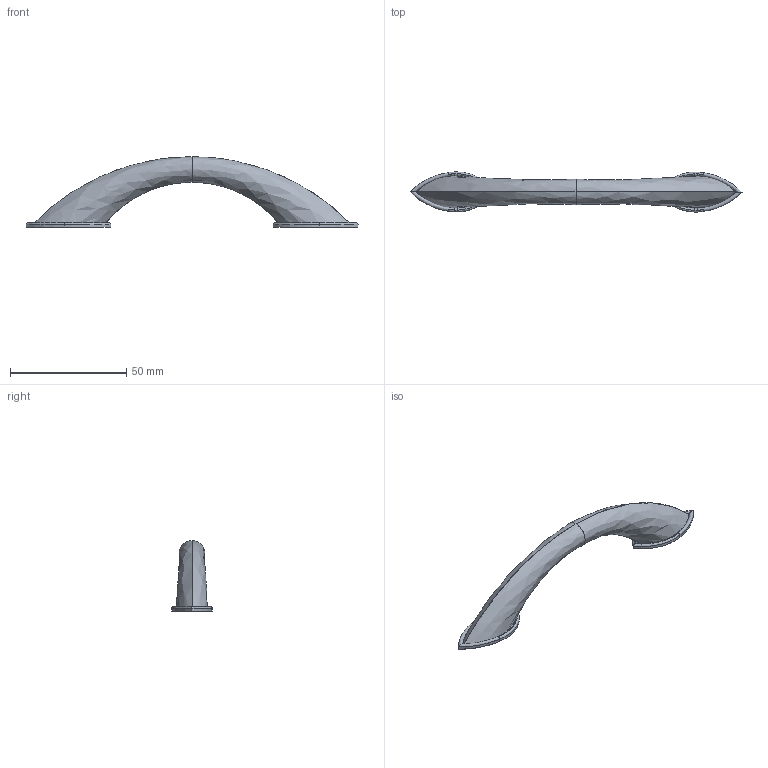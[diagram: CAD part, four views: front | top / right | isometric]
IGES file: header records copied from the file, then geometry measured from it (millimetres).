
Start section: C
Global section: file name: 0080-142.igs; native system: By Siemens PLM Incorporated; preprocessor: XPlus GENERIC/IGES 16.0.42; author: Author; organization: Title; date: 20231226.144358; units: millimetre
Bounding box: 142.88 x 17.38 x 30.4 mm (x, y, z)
Surface area: 8085.2 mm2 (no closed solid volume)
Topology: 0 solids, 0 shells, 56 faces, 300 edges, 300 vertices
Faces by surface type: bspline 56
